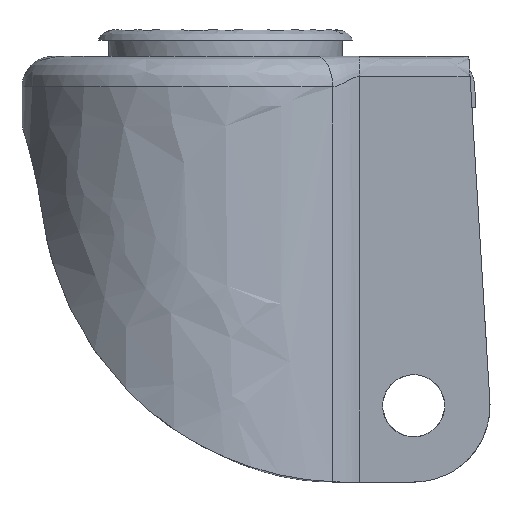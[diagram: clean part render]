
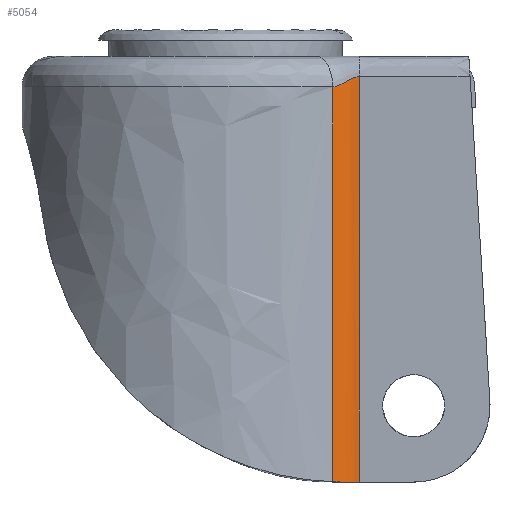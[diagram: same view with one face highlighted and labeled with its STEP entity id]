
A CAD part, left-side view. The second image highlights one B-rep face of the part: STEP entity #5054.
In plain terms, the highlighted free-form (B-spline) face has degree [3, 3] with [7, 4] control points.
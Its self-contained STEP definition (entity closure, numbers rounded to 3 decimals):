
#2440 = B_SPLINE_SURFACE_WITH_KNOTS ( 'NONE', 3, 3, ( 
 ( #5413, #5412, #5367, #5414 ),
 ( #5415, #5416, #5417, #5418 ),
 ( #5419, #5420, #5421, #5422 ),
 ( #5423, #5424, #7347, #5840 ),
 ( #5630, #5631, #5632, #5633 ),
 ( #5634, #5635, #5636, #5637 ),
 ( #5638, #5639, #5640, #5641 ) ),
 .UNSPECIFIED., .F., .F., .F.,
 ( 4, 3, 4 ),
 ( 4, 4 ),
 ( 0., 0.94, 0.969 ),
 ( 0., 1. ),
 .UNSPECIFIED. ) ;
#2943 = CARTESIAN_POINT ( 'NONE',  ( -34., -21.071, -31.325 ) ) ;
#3014 = CARTESIAN_POINT ( 'NONE',  ( -32.5, -26.339, -29.325 ) ) ;
#3022 = CARTESIAN_POINT ( 'NONE',  ( -34., -21.071, -31.325 ) ) ;
#3023 = CARTESIAN_POINT ( 'NONE',  ( -34., -21.071, -31.325 ) ) ;
#3024 = CARTESIAN_POINT ( 'NONE',  ( -34., -21.071, -31.325 ) ) ;
#3025 = CARTESIAN_POINT ( 'NONE',  ( -34., -21.071, -57.199 ) ) ;
#3026 = CARTESIAN_POINT ( 'NONE',  ( -34., -21.071, -83.073 ) ) ;
#3027 = CARTESIAN_POINT ( 'NONE',  ( -34., -21.071, -108.947 ) ) ;
#3029 = CARTESIAN_POINT ( 'NONE',  ( -32.5, -26.106, -29.327 ) ) ;
#3030 = CARTESIAN_POINT ( 'NONE',  ( -32.508, -25.874, -29.354 ) ) ;
#3031 = CARTESIAN_POINT ( 'NONE',  ( -32.54, -25.412, -29.458 ) ) ;
#3032 = CARTESIAN_POINT ( 'NONE',  ( -32.565, -25.182, -29.535 ) ) ;
#3033 = CARTESIAN_POINT ( 'NONE',  ( -32.661, -24.495, -29.815 ) ) ;
#3034 = CARTESIAN_POINT ( 'NONE',  ( -32.756, -24.044, -30.07 ) ) ;
#3035 = CARTESIAN_POINT ( 'NONE',  ( -33.008, -23.157, -30.58 ) ) ;
#3036 = CARTESIAN_POINT ( 'NONE',  ( -33.165, -22.723, -30.835 ) ) ;
#3037 = CARTESIAN_POINT ( 'NONE',  ( -33.445, -22.089, -31.115 ) ) ;
#3038 = CARTESIAN_POINT ( 'NONE',  ( -33.647, -21.672, -31.268 ) ) ;
#3039 = CARTESIAN_POINT ( 'NONE',  ( -33.877, -21.269, -31.323 ) ) ;
#3040 = CARTESIAN_POINT ( 'NONE',  ( -34., -21.071, -31.325 ) ) ;
#3047 = CARTESIAN_POINT ( 'NONE',  ( -34., -21.071, -108.947 ) ) ;
#3092 = CARTESIAN_POINT ( 'NONE',  ( -33.517, -21.851, -108.98 ) ) ;
#3093 = CARTESIAN_POINT ( 'NONE',  ( -33.142, -22.697, -109. ) ) ;
#3094 = CARTESIAN_POINT ( 'NONE',  ( -32.888, -23.579, -109. ) ) ;
#3117 = CARTESIAN_POINT ( 'NONE',  ( -32.887, -23.584, -109. ) ) ;
#3130 = CARTESIAN_POINT ( 'NONE',  ( -32.888, -23.582, -109. ) ) ;
#3131 = CARTESIAN_POINT ( 'NONE',  ( -32.888, -23.581, -109. ) ) ;
#3132 = CARTESIAN_POINT ( 'NONE',  ( -32.888, -23.579, -109. ) ) ;
#3146 = CARTESIAN_POINT ( 'NONE',  ( -32.887, -23.584, -109. ) ) ;
#3151 = CARTESIAN_POINT ( 'NONE',  ( -32.632, -24.475, -109. ) ) ;
#3152 = CARTESIAN_POINT ( 'NONE',  ( -32.5, -25.403, -109. ) ) ;
#3153 = CARTESIAN_POINT ( 'NONE',  ( -32.5, -26.339, -109. ) ) ;
#3267 = CARTESIAN_POINT ( 'NONE',  ( -32.5, -26.339, -28.325 ) ) ;
#3271 = DIRECTION ( 'NONE',  ( 0., 0., -1. ) ) ;
#3317 = CARTESIAN_POINT ( 'NONE',  ( -34., -21.071, -31.325 ) ) ;
#3324 = CARTESIAN_POINT ( 'NONE',  ( -34., -21.071, -108.947 ) ) ;
#3412 = CARTESIAN_POINT ( 'NONE',  ( -32.888, -23.579, -109. ) ) ;
#3416 = CARTESIAN_POINT ( 'NONE',  ( -32.5, -26.339, -29.325 ) ) ;
#3419 = CARTESIAN_POINT ( 'NONE',  ( -32.5, -26.339, -109. ) ) ;
#3425 = CARTESIAN_POINT ( 'NONE',  ( -32.887, -23.584, -109. ) ) ;
#4803 = ORIENTED_EDGE ( 'NONE', *, *, #6268, .F. ) ;
#4804 = ORIENTED_EDGE ( 'NONE', *, *, #6275, .T. ) ;
#4805 = ORIENTED_EDGE ( 'NONE', *, *, #6287, .F. ) ;
#4806 = ORIENTED_EDGE ( 'NONE', *, *, #6258, .T. ) ;
#4807 = ORIENTED_EDGE ( 'NONE', *, *, #6257, .T. ) ;
#4826 = ORIENTED_EDGE ( 'NONE', *, *, #6263, .T. ) ;
#5054 = ADVANCED_FACE ( 'NONE', ( #5456 ), #2440, .T. ) ;
#5367 = CARTESIAN_POINT ( 'NONE',  ( -33.019, -22.653, -109. ) ) ;
#5412 = CARTESIAN_POINT ( 'NONE',  ( -32.5, -24.478, -109. ) ) ;
#5413 = CARTESIAN_POINT ( 'NONE',  ( -32.5, -26.339, -109. ) ) ;
#5414 = CARTESIAN_POINT ( 'NONE',  ( -34., -21.071, -109. ) ) ;
#5415 = CARTESIAN_POINT ( 'NONE',  ( -32.5, -26.339, -83.108 ) ) ;
#5416 = CARTESIAN_POINT ( 'NONE',  ( -32.5, -24.478, -83.108 ) ) ;
#5417 = CARTESIAN_POINT ( 'NONE',  ( -33.019, -22.653, -83.108 ) ) ;
#5418 = CARTESIAN_POINT ( 'NONE',  ( -34., -21.071, -83.108 ) ) ;
#5419 = CARTESIAN_POINT ( 'NONE',  ( -32.5, -26.339, -57.217 ) ) ;
#5420 = CARTESIAN_POINT ( 'NONE',  ( -32.5, -24.478, -57.217 ) ) ;
#5421 = CARTESIAN_POINT ( 'NONE',  ( -33.019, -22.653, -57.217 ) ) ;
#5422 = CARTESIAN_POINT ( 'NONE',  ( -34., -21.071, -57.217 ) ) ;
#5423 = CARTESIAN_POINT ( 'NONE',  ( -32.5, -26.339, -31.325 ) ) ;
#5424 = CARTESIAN_POINT ( 'NONE',  ( -32.5, -24.478, -31.325 ) ) ;
#5437 = EDGE_LOOP ( 'NONE', ( #4826, #4803, #4804, #4805, #4806, #4807 ) ) ;
#5456 = FACE_OUTER_BOUND ( 'NONE', #5437, .T. ) ;
#5630 = CARTESIAN_POINT ( 'NONE',  ( -32.5, -26.339, -30.499 ) ) ;
#5631 = CARTESIAN_POINT ( 'NONE',  ( -32.5, -24.478, -30.499 ) ) ;
#5632 = CARTESIAN_POINT ( 'NONE',  ( -33.019, -22.653, -30.499 ) ) ;
#5633 = CARTESIAN_POINT ( 'NONE',  ( -34., -21.071, -30.499 ) ) ;
#5634 = CARTESIAN_POINT ( 'NONE',  ( -32.5, -26.339, -29.673 ) ) ;
#5635 = CARTESIAN_POINT ( 'NONE',  ( -32.5, -24.478, -29.673 ) ) ;
#5636 = CARTESIAN_POINT ( 'NONE',  ( -33.019, -22.653, -29.673 ) ) ;
#5637 = CARTESIAN_POINT ( 'NONE',  ( -34., -21.071, -29.673 ) ) ;
#5638 = CARTESIAN_POINT ( 'NONE',  ( -32.5, -26.339, -28.847 ) ) ;
#5639 = CARTESIAN_POINT ( 'NONE',  ( -32.5, -24.478, -28.847 ) ) ;
#5640 = CARTESIAN_POINT ( 'NONE',  ( -33.019, -22.653, -28.847 ) ) ;
#5641 = CARTESIAN_POINT ( 'NONE',  ( -34., -21.071, -28.847 ) ) ;
#5840 = CARTESIAN_POINT ( 'NONE',  ( -34., -21.071, -31.325 ) ) ;
#6257 = EDGE_CURVE ( 'NONE', #6716, #6723, #9593, .T. ) ;
#6258 = EDGE_CURVE ( 'NONE', #6815, #6716, #9594, .T. ) ;
#6263 = EDGE_CURVE ( 'NONE', #6723, #6811, #9599, .T. ) ;
#6268 = EDGE_CURVE ( 'NONE', #6824, #6811, #9604, .T. ) ;
#6275 = EDGE_CURVE ( 'NONE', #6824, #6818, #9608, .T. ) ;
#6287 = EDGE_CURVE ( 'NONE', #6815, #6818, #8796, .T. ) ;
#6716 = VERTEX_POINT ( 'NONE', #3317 ) ;
#6723 = VERTEX_POINT ( 'NONE', #3324 ) ;
#6811 = VERTEX_POINT ( 'NONE', #3412 ) ;
#6815 = VERTEX_POINT ( 'NONE', #3416 ) ;
#6818 = VERTEX_POINT ( 'NONE', #3419 ) ;
#6824 = VERTEX_POINT ( 'NONE', #3425 ) ;
#7347 = CARTESIAN_POINT ( 'NONE',  ( -33.019, -22.653, -31.325 ) ) ;
#8796 = LINE ( 'NONE', #3267, #8801 ) ;
#8801 = VECTOR ( 'NONE', #3271, 1000. ) ;
#9593 = B_SPLINE_CURVE_WITH_KNOTS ( 'NONE', 3,
 ( #2943, #3022, #3023, #3024, #3025, #3026, #3027 ),
 .UNSPECIFIED., .F., .F.,
 ( 4, 3, 4 ),
 ( 0., 0., 1. ),
 .UNSPECIFIED. ) ;
#9594 = B_SPLINE_CURVE_WITH_KNOTS ( 'NONE', 3,
 ( #3014, #3029, #3030, #3031, #3032, #3033, #3034, #3035, #3036, #3037, #3038, #3039, #3040 ),
 .UNSPECIFIED., .F., .F.,
 ( 4, 2, 2, 2, 2, 1, 4 ),
 ( 0., 0.125, 0.25, 0.5, 0.75, 0.875, 1. ),
 .UNSPECIFIED. ) ;
#9599 = B_SPLINE_CURVE_WITH_KNOTS ( 'NONE', 3,
 ( #3047, #3092, #3093, #3094 ),
 .UNSPECIFIED., .F., .F.,
 ( 4, 4 ),
 ( 0., 0.003 ),
 .UNSPECIFIED. ) ;
#9604 = B_SPLINE_CURVE_WITH_KNOTS ( 'NONE', 3,
 ( #3117, #3130, #3131, #3132 ),
 .UNSPECIFIED., .F., .F.,
 ( 4, 4 ),
 ( 0., 1. ),
 .UNSPECIFIED. ) ;
#9608 = B_SPLINE_CURVE_WITH_KNOTS ( 'NONE', 3,
 ( #3146, #3151, #3152, #3153 ),
 .UNSPECIFIED., .F., .F.,
 ( 4, 4 ),
 ( 0., 0.003 ),
 .UNSPECIFIED. ) ;
